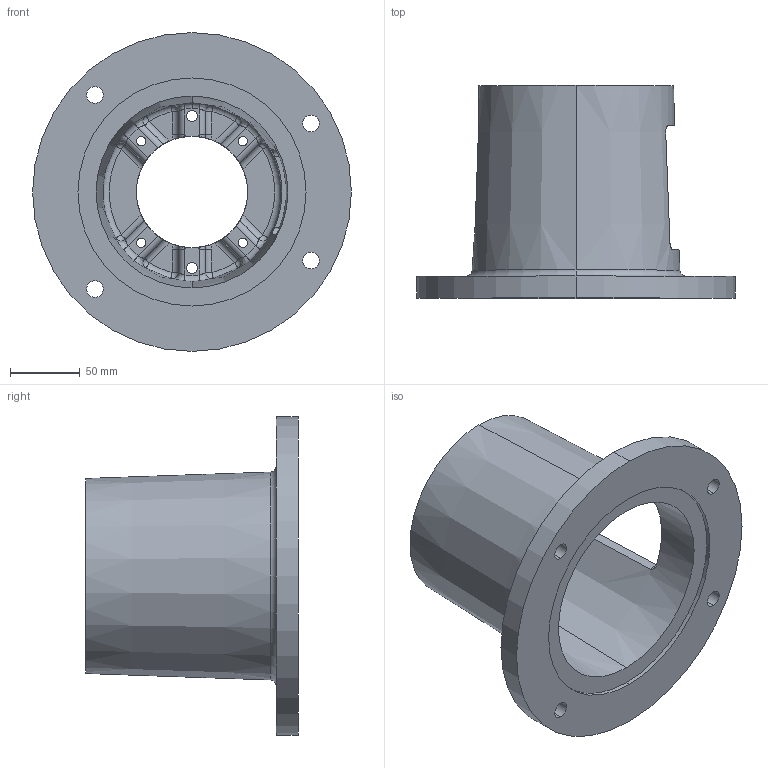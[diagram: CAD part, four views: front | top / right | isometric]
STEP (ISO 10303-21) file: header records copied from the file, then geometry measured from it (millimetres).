
FILE_DESCRIPTION (( 'STEP AP203' ), '1' );
FILE_NAME ('E7006080M.STEP', '2014-11-04T13:15:14', ( '' ), ( '' ), 'SwSTEP 2.0', 'SolidWorks 2014', '' );
FILE_SCHEMA (( 'CONFIG_CONTROL_DESIGN' ));
Length unit declared in the file: inch
Products named in the file (1): E7006080M
Bounding box: 228.6 x 152.4 x 228.6 mm (x, y, z)
Volume: 814094.6 mm3; surface area: 199038.4 mm2
Topology: 1 solids, 1 shells, 153 faces, 388 edges, 227 vertices
Faces by surface type: cylinder 58, plane 32, bspline 24, torus 23, sphere 12, cone 4
Entity records: 6533 total; most frequent: CARTESIAN_POINT 2915, ORIENTED_EDGE 752, DIRECTION 742, EDGE_CURVE 376, AXIS2_PLACEMENT_3D 320, VERTEX_POINT 227, CIRCLE 190, EDGE_LOOP 179
